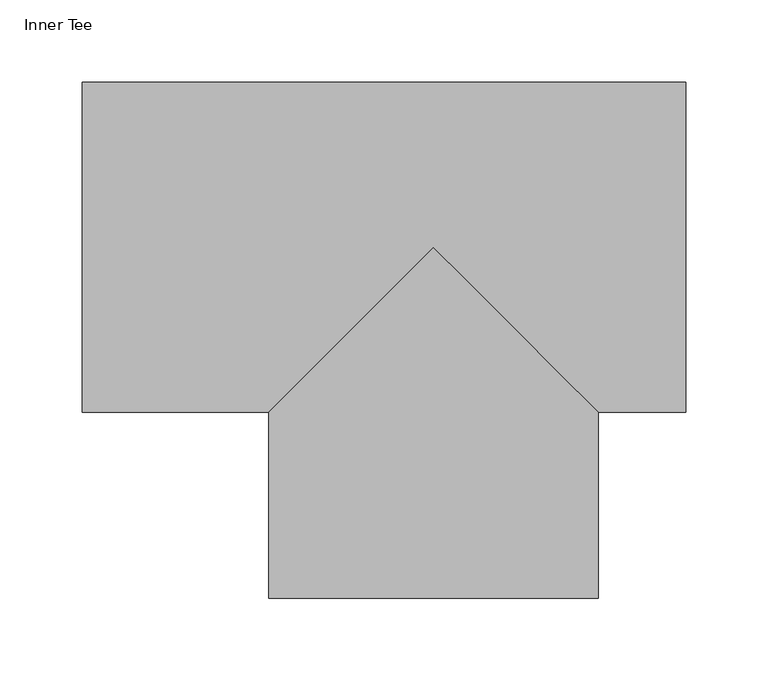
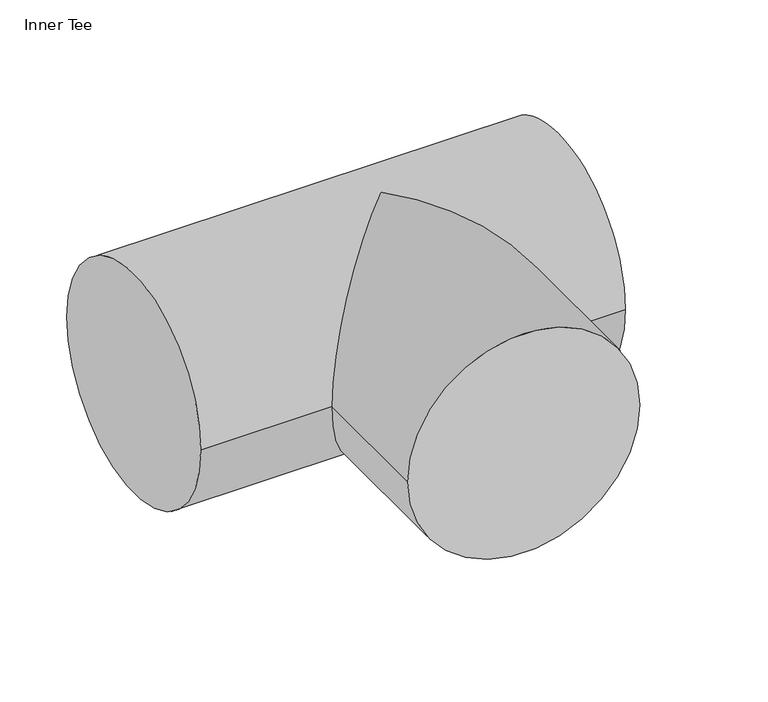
"""IFC4 building model written with IfcOpenShell, lengths in millimetres: pipe fitting geometry, CADS_Jeremias_InnerTee : Inner Tee."""

from ifc_helpers import new_model, si_unit, frame, origin, place, context, project, spatial, circle_curve, ellipse_curve, source, transform, mapped, element, save
from ifc_brep_helpers import plane_surface, cylinder_surface, advanced_brep


def inner_tee_e0705f29(model_context):
    return source(origin(), model_context, "Body", "AdvancedBrep", [
        advanced_brep(
        [(-213.0, -100.0, 0.0), (-213.0, 100.0, 0.0), (153.0, -100.0, 0.0), (153.0, 100.0, 0.0), (-100.0, -100.0, 0.0), (0.0, 0.0, 100.0), (100.0, -100.0, 0.0), (0.0, 0.0, -100.0), (-100.0, -213.0, 0.0), (100.0, -213.0, 0.0)],
        [
            (0, 1, circle_curve(frame((-213.0, 0.0, 0.0), z_axis=(-1.0, 0.0, 0.0), x_axis=(0.0, 1.0, 0.0)), 100.0)),
            (1, 0, circle_curve(frame((-213.0, 0.0, 0.0), z_axis=(-1.0, 0.0, 0.0), x_axis=(0.0, 1.0, 0.0)), 100.0)),
            (2, 3, circle_curve(frame((153.0, 0.0, 0.0), z_axis=(1.0, 0.0, 0.0), x_axis=(0.0, 1.0, 0.0)), 100.0)),
            (3, 2, circle_curve(frame((153.0, 0.0, 0.0), z_axis=(1.0, 0.0, 0.0), x_axis=(0.0, 1.0, 0.0)), 100.0)),
            (0, 4),
            (4, 5, ellipse_curve(frame((0.0, 0.0, 0.0), z_axis=(-0.7071067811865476, 0.7071067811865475, 0.0), x_axis=(-0.7071067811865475, -0.7071067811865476, 0.0)), 141.4213562, 100.0)),
            (5, 6, ellipse_curve(frame((0.0, 0.0, 0.0), z_axis=(0.7071067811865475, 0.7071067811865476, 0.0), x_axis=(-0.7071067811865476, 0.7071067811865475, 0.0)), 141.4213562, 100.0)),
            (6, 2),
            (3, 1),
            (6, 7, ellipse_curve(frame((0.0, 0.0, 0.0), z_axis=(0.7071067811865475, 0.7071067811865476, 0.0), x_axis=(-0.7071067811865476, 0.7071067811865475, 0.0)), 141.4213562, 100.0)),
            (7, 4, ellipse_curve(frame((0.0, 0.0, 0.0), z_axis=(-0.7071067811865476, 0.7071067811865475, 0.0), x_axis=(-0.7071067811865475, -0.7071067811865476, 0.0)), 141.4213562, 100.0)),
            (8, 9, circle_curve(frame((0.0, -213.0, 0.0), z_axis=(0.0, -1.0, 0.0), x_axis=(1.0, 0.0, 0.0)), 100.0)),
            (9, 8, circle_curve(frame((0.0, -213.0, 0.0), z_axis=(0.0, -1.0, 0.0), x_axis=(1.0, 0.0, 0.0)), 100.0)),
            (9, 6),
            (4, 8),
        ],
        [
            plane_surface(frame((-213.0, 0.0, 0.0), z_axis=(-1.0, 0.0, 0.0), x_axis=(0.0, 0.0, 1.0))),
            plane_surface(frame((153.0, 0.0, 0.0), z_axis=(1.0, 0.0, 0.0), x_axis=(0.0, 0.0, 1.0))),
            cylinder_surface(frame((-213.0, 0.0, 0.0), z_axis=(-1.0, 0.0, 0.0), x_axis=(0.0, 1.0, 0.0)), 100.0),
            plane_surface(frame((0.0, -213.0, 0.0), z_axis=(0.0, -1.0, 0.0), x_axis=(0.0, 0.0, 1.0))),
            cylinder_surface(frame((0.0, 0.0, 0.0), z_axis=(0.0, 1.0, 0.0), x_axis=(1.0, 0.0, 0.0)), 100.0),
        ],
        [
            (0, [[1, 2]]),
            (1, [[3, 4]]),
            (2, [[-1, 5, 6, 7, 8, -4, 9]]),
            (2, [[-2, -9, -3, -8, 10, 11, -5]]),
            (3, [[12, 13]]),
            (4, [[-13, 14, -7, -6, 15]]),
            (4, [[-12, -15, -11, -10, -14]]),
        ],
    ),
    ])


if __name__ == "__main__":
    model = new_model("IFC4")
    model_context = context("Model", 3, world=origin())
    ifc_project = project(units=[si_unit("LENGTHUNIT", "METRE", prefix="MILLI")], contexts=[model_context])
    site = spatial("IfcSite", under=ifc_project)
    building = spatial("IfcBuilding", under=site)
    placement = place(None, origin())
    inner_tee_shape = inner_tee_e0705f29(model_context)
    element("IfcPipeFitting", 1, ObjectType="CADS_Jeremias_InnerTee : Inner Tee", at=placement, inside=building, context=model_context, shape_type="MappedRepresentation", body=[
        mapped(inner_tee_shape, transform((0.0, 0.0, 0.0), x_axis=(1.0, 0.0, 0.0), y_axis=(0.0, 1.0, 0.0), z_axis=(0.0, 0.0, 1.0))),
    ])
    save(model, "model.ifc")
